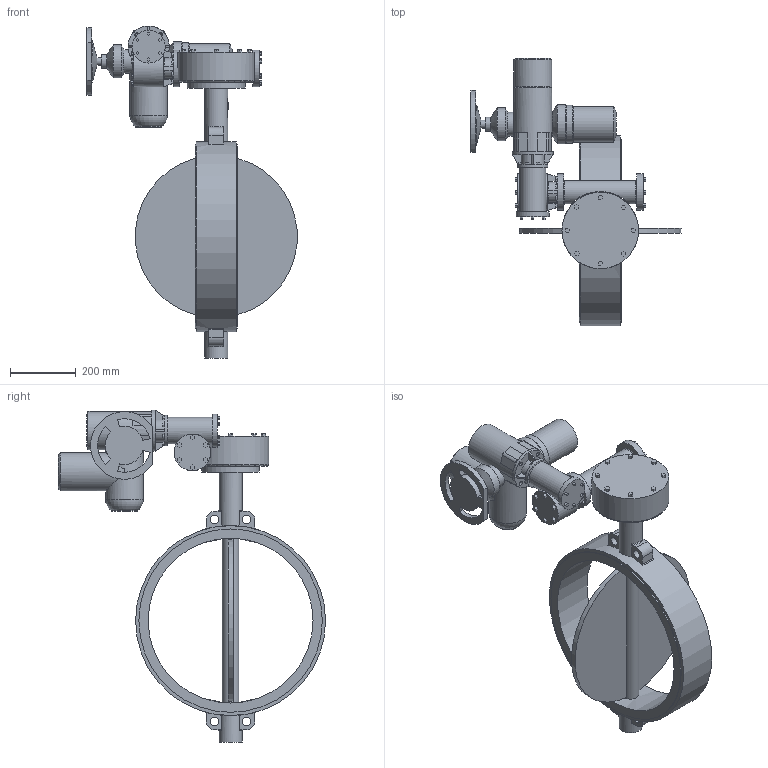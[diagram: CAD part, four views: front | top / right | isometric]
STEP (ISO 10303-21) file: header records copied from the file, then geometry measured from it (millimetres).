
FILE_DESCRIPTION(('STEP AP203'), '1');
FILE_NAME('青蜮铕 017W.YS_DN500_PN10_MT903.A07', '', ('UNSPECIFIED'), ('UNSPECIFIED'), 'ASCON STEP Converter 1.6', 'ASCON Math Kernel', '');
FILE_SCHEMA(('CONFIG_CONTROL_DESIGN'));
Length unit declared in the file: millimetre
Bounding box: 636.9 x 810 x 1006.5 mm (x, y, z)
Volume: 28206750.6 mm3; surface area: 1783217.5 mm2
Topology: 1 solids, 1 shells, 556 faces, 1416 edges, 921 vertices
Faces by surface type: plane 441, cylinder 86, cone 17, torus 10, bspline 2
Full cylindrical faces by diameter (mm): 8.5 x4, 12 x4, 13.835 x4, 18 x4, 24 x1, 26 x4, 42 x1, 50 x1, 61 x1, 66 x1, 70 x2, 71 x1, 72 x1, 80 x2, 92 x1, 100 x2, 108 x1, 111 x3, 114 x1, 115 x1, 116 x2, 119 x1, 125 x1, 175 x1, 232 x1, 500 x1, 556 x2, 576 x1
Entity records: 23385 total; most frequent: CARTESIAN_POINT 5630, ORIENTED_EDGE 2672, DIRECTION 2632, EDGE_CURVE 1336, LINE 1036, VECTOR 1036, VERTEX_POINT 917, AXIS2_PLACEMENT_3D 798
